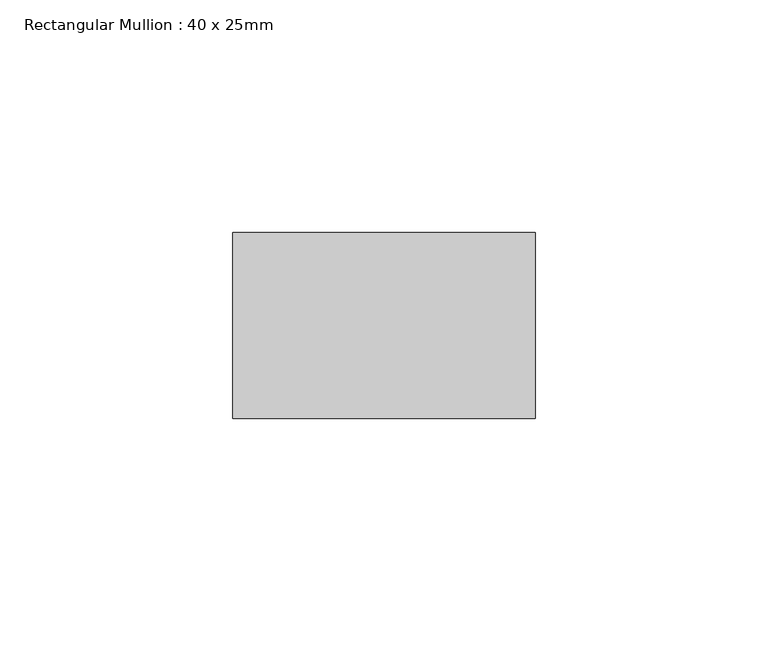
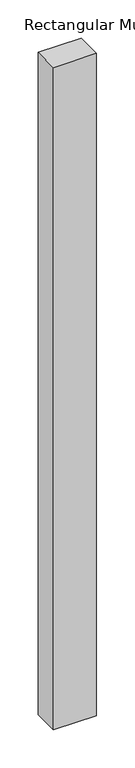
"""IFC4 building model written with IfcOpenShell, lengths in millimetres: member geometry, Rectangular Mullion : 40 x 25mm."""

import ifcopenshell
import ifcopenshell.guid

model = None  # the IFC model being written
_history = None  # IfcOwnerHistory: only IFC2X3 demands one
_inside = {}  # id of a spatial element -> (the spatial element, [elements in it])
_under = {}  # id of a project, library or spatial element -> (it, [spatial elements below it])
_declared = {}  # id of a project -> (the project, [libraries it declares])
_typed = {}  # id of a type object -> (the type object, [elements of that type])
_made_of = {}  # id of a material, layer set ... -> (it, [elements and type objects made of it])


def new_model(schema):
    """Start an empty IFC model of exactly this schema.

    Asked for "IFC4X3", IfcOpenShell would pick the latest addendum, in which some entities
    have other attributes; the version numbers below select the first issue.
    IFC2X3 requires an IfcOwnerHistory on every rooted entity: one is made here for all.
    """
    global model, _history
    if schema == "IFC4X3":
        model = ifcopenshell.file(schema_version=(4, 3, 0, 0))
    else:
        model = ifcopenshell.file(schema=schema)
    _inside.clear()
    _under.clear()
    _declared.clear()
    _typed.clear()
    _made_of.clear()
    _history = None
    if model.schema == "IFC2X3":
        org = make("IfcOrganization", Name="unknown")
        user = make(
            "IfcPersonAndOrganization",
            ThePerson=make("IfcPerson", FamilyName="unknown"),
            TheOrganization=org,
        )
        app = make(
            "IfcApplication",
            ApplicationDeveloper=org,
            Version="unknown",
            ApplicationFullName="unknown",
            ApplicationIdentifier="unknown",
        )
        _history = make(
            "IfcOwnerHistory",
            OwningUser=user,
            OwningApplication=app,
            ChangeAction="ADDED",
            CreationDate=0,
        )
    return model


def make(cls, **values):
    """One entity of the class cls with the attributes given. An attribute that is None is left unset."""
    return model.create_entity(
        cls, **{name: value for name, value in values.items() if value is not None}
    )


def rooted(cls, **values):
    """An entity with a GlobalId (a new one), such as an element, a storey or a relation."""
    return make(cls, GlobalId=ifcopenshell.guid.new(), OwnerHistory=_history, **values)


def si_unit(unit_type, name, prefix=None):
    """IfcSIUnit, for example si_unit("LENGTHUNIT", "METRE", prefix="MILLI")."""
    return make("IfcSIUnit", UnitType=unit_type, Prefix=prefix, Name=name)


def assignment(units):
    """IfcUnitAssignment: the units of a project."""
    return None if units is None else make("IfcUnitAssignment", Units=units)


def point(xyz):
    """IfcCartesianPoint."""
    return None if xyz is None else make("IfcCartesianPoint", Coordinates=xyz)


def direction(xyz):
    """IfcDirection."""
    return None if xyz is None else make("IfcDirection", DirectionRatios=xyz)


def frame(location, z_axis=None, x_axis=None):
    """IfcAxis2Placement3D, a coordinate frame: its origin and axes. An axis left out is left unset."""
    return make(
        "IfcAxis2Placement3D",
        Location=point(location),
        Axis=direction(z_axis),
        RefDirection=direction(x_axis),
    )


def origin():
    """The frame at (0, 0, 0) with its axes left unset."""
    return frame((0.0, 0.0, 0.0))


def place(relative_to, where):
    """IfcLocalPlacement: puts the frame where relative to a parent placement (None: the world)."""
    return make(
        "IfcLocalPlacement", PlacementRelTo=relative_to, RelativePlacement=where
    )


def context(
    kind, dimensions, precision=None, world=None, true_north=None, identifier=None
):
    """IfcGeometricRepresentationContext, for example the 3D "Model" context."""
    return make(
        "IfcGeometricRepresentationContext",
        ContextIdentifier=identifier,
        ContextType=kind,
        CoordinateSpaceDimension=dimensions,
        Precision=precision,
        WorldCoordinateSystem=world,
        TrueNorth=true_north,
    )


def project(units=None, contexts=None):
    """IfcProject with its units and contexts."""
    return rooted(
        "IfcProject",
        Name="project",
        RepresentationContexts=contexts,
        UnitsInContext=assignment(units),
    )


def spatial(cls, under=None, at=None, **own):
    """A site, building, storey or space (cls), placed at a placement, below another one or the project."""
    s = rooted(cls, ObjectPlacement=at, **own)
    if under is not None:
        _under.setdefault(under.id(), (under, []))[1].append(s)
    return s


def polyline(points):
    """IfcPolyline through the points."""
    return make("IfcPolyline", Points=[point(p) for p in points])


def outline(outer, holes=None, kind="AREA"):
    """IfcArbitraryClosedProfileDef: a profile drawn as a closed curve; with holes, ...WithVoids."""
    if holes is None:
        return make("IfcArbitraryClosedProfileDef", ProfileType=kind, OuterCurve=outer)
    return make(
        "IfcArbitraryProfileDefWithVoids",
        ProfileType=kind,
        OuterCurve=outer,
        InnerCurves=holes,
    )


def extrude(swept, where, along, depth):
    """IfcExtrudedAreaSolid: the profile swept, set in the frame where, extruded along a direction by depth."""
    return make(
        "IfcExtrudedAreaSolid",
        SweptArea=swept,
        Position=where,
        ExtrudedDirection=direction(along),
        Depth=depth,
    )


def shape(context_of_items, identifier, shape_type, items):
    """IfcShapeRepresentation: the items that make up one representation, for example the "Body"."""
    return make(
        "IfcShapeRepresentation",
        ContextOfItems=context_of_items,
        RepresentationIdentifier=identifier,
        RepresentationType=shape_type,
        Items=items,
    )


def source(mapping_origin, context_of_items, identifier, shape_type, items):
    """IfcRepresentationMap: a shape defined once, which mapped items show again and again."""
    return make(
        "IfcRepresentationMap",
        MappingOrigin=mapping_origin,
        MappedRepresentation=shape(context_of_items, identifier, shape_type, items),
    )


def transform(
    local_origin,
    x_axis=None,
    y_axis=None,
    z_axis=None,
    scale=None,
    scale2=None,
    scale3=None,
    uniform=True,
):
    """IfcCartesianTransformationOperator3D, or its non-uniform kind. x_axis, y_axis, z_axis: its Axis1, 2, 3."""
    if uniform:
        return make(
            "IfcCartesianTransformationOperator3D",
            Axis1=direction(x_axis),
            Axis2=direction(y_axis),
            LocalOrigin=point(local_origin),
            Scale=scale,
            Axis3=direction(z_axis),
        )
    return make(
        "IfcCartesianTransformationOperator3DnonUniform",
        Axis1=direction(x_axis),
        Axis2=direction(y_axis),
        LocalOrigin=point(local_origin),
        Scale=scale,
        Axis3=direction(z_axis),
        Scale2=scale2,
        Scale3=scale3,
    )


def mapped(mapping_source, mapping_target):
    """IfcMappedItem: shows the shape of a source again, moved by a transform."""
    return make(
        "IfcMappedItem", MappingSource=mapping_source, MappingTarget=mapping_target
    )


def made_of(thing, what):
    """Note that an element or type object is made of a material, layer set ...; save() writes the relation."""
    if what is not None:
        _made_of.setdefault(what.id(), (what, []))[1].append(thing)
    return thing


def element(
    cls,
    number,
    at=None,
    inside=None,
    cuts=None,
    type_object=None,
    material=None,
    context=None,
    identifier="Body",
    shape_type=None,
    held_by="IfcProductDefinitionShape",
    body=None,
    shapes=None,
    **own,
):
    """One element of the class cls, such as IfcWall. Its Tag is "e" and its number.

    at: its placement. inside: the storey or other place that contains it. cuts: it is an
    opening in that element (IfcRelVoidsElement). A single representation is given by context,
    identifier, shape_type and body (its items); several are given by shapes. held_by: the class
    of the entity that holds the representations. save() writes the other relations.
    """
    e = rooted(cls, Tag="e%d" % number, ObjectPlacement=at, **own)
    if body is not None:
        shapes = [shape(context, identifier, shape_type, body)]
    if shapes is not None:
        e.Representation = make(held_by, Representations=shapes)
    if inside is not None:
        _inside.setdefault(inside.id(), (inside, []))[1].append(e)
    if cuts is not None:
        rooted(
            "IfcRelVoidsElement", RelatingBuildingElement=cuts, RelatedOpeningElement=e
        )
    if type_object is not None:
        _typed.setdefault(type_object.id(), (type_object, []))[1].append(e)
    return made_of(e, material)


def aggregate(whole, parts):
    """IfcRelAggregates: a whole, such as a stair, and the parts it consists of."""
    return rooted("IfcRelAggregates", RelatingObject=whole, RelatedObjects=parts)


def save(model, path):
    """Write the relations noted so far, then the file.

    IfcRelAggregates (storeys below a building ...), IfcRelContainedInSpatialStructure (elements
    in a storey), IfcRelDefinesByType, IfcRelAssociatesMaterial and IfcRelDeclares: one each for
    every whole, place, type object, material and project.
    """
    for whole, parts in _under.values():
        aggregate(whole, parts)
    for where, things in _inside.values():
        rooted(
            "IfcRelContainedInSpatialStructure",
            RelatedElements=things,
            RelatingStructure=where,
        )
    for kind, things in _typed.values():
        rooted("IfcRelDefinesByType", RelatedObjects=things, RelatingType=kind)
    for what, things in _made_of.values():
        rooted("IfcRelAssociatesMaterial", RelatedObjects=things, RelatingMaterial=what)
    for by, libraries in _declared.values():
        rooted("IfcRelDeclares", RelatingContext=by, RelatedDefinitions=libraries)
    model.write(path)


def rectangular_mullion_40_x_25mm_0fe7d4f6(model_context):
    return source(origin(), model_context, "Body", "SweptSolid", [
        extrude(outline(polyline([(0.0, -20.0), (0.0, -60.0), (-65.0, -60.0), (-65.0, -20.0), (0.0, -20.0)])), frame((0.0, 0.0, -1058.1089177), z_axis=(0.0, 0.0, 1.0), x_axis=(1.0, 0.0, 0.0)), (0.0, 0.0, 1.0), 1058.1089177),
    ])


if __name__ == "__main__":
    model = new_model("IFC4")
    model_context = context("Model", 3, world=origin())
    ifc_project = project(units=[si_unit("LENGTHUNIT", "METRE", prefix="MILLI")], contexts=[model_context])
    site = spatial("IfcSite", under=ifc_project)
    building = spatial("IfcBuilding", under=site)
    placement = place(None, origin())
    rectangular_mullion_40_x_25mm_shape = rectangular_mullion_40_x_25mm_0fe7d4f6(model_context)
    element("IfcMember", 1, ObjectType="Rectangular Mullion : 40 x 25mm", at=placement, inside=building, context=model_context, shape_type="MappedRepresentation", body=[
        mapped(rectangular_mullion_40_x_25mm_shape, transform((0.0, 0.0, 0.0), x_axis=(1.0, 0.0, 0.0), y_axis=(0.0, 1.0, 0.0), z_axis=(0.0, 0.0, 1.0))),
    ])
    save(model, "model.ifc")
